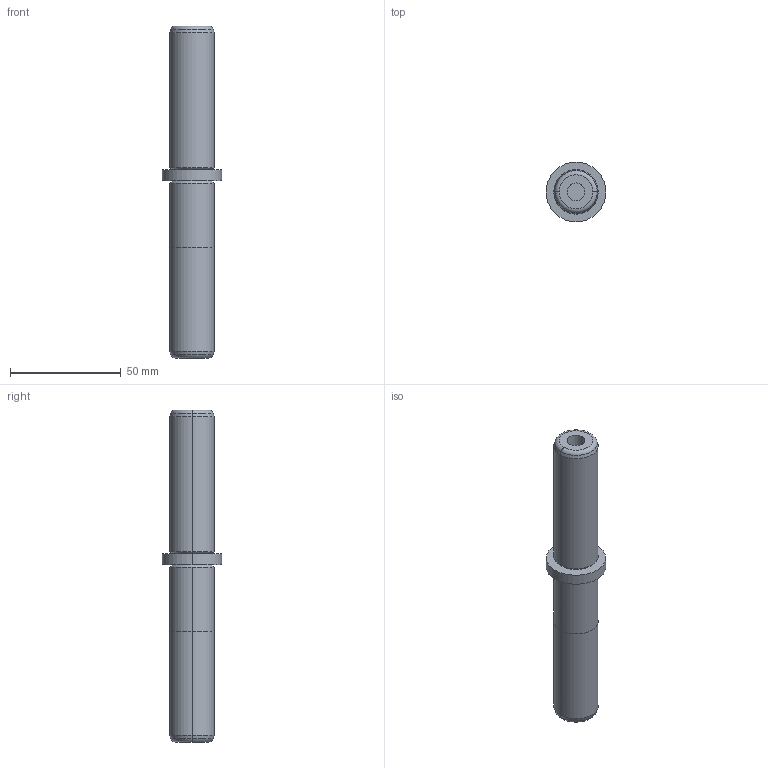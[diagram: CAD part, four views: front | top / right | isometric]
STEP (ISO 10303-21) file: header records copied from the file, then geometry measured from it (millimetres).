
FILE_DESCRIPTION(/* description */ (''),/* implementation_level */ '2;1');
FILE_NAME(/* name */ '3d_sgpwh20-80-70-b30_05311_r00.stp',/* time_stamp */ '2011-01-10T14:11:02+09:00',/* author */ ('MISUMI'),/* organization */ (''),/* preprocessor_version */ 'ST-DEVELOPER v11',/* originating_system */ 'UGS - NX 5.0',/* authorisation */ '');
FILE_SCHEMA (('CONFIG_CONTROL_DESIGN'));
Length unit declared in the file: millimetre
Products named in the file (1): 3d_sgpwh20-80-70-b30_05311_r00
Bounding box: 27 x 27 x 150 mm (x, y, z)
Volume: 45643.6 mm3; surface area: 11945.3 mm2
Topology: 1 solids, 1 shells, 30 faces, 58 edges, 34 vertices
Faces by surface type: cylinder 12, cone 8, plane 6, torus 4
Entity records: 854 total; most frequent: DIRECTION 158, CARTESIAN_POINT 123, ORIENTED_EDGE 116, AXIS2_PLACEMENT_3D 69, EDGE_CURVE 58, CIRCLE 38, EDGE_LOOP 34, VERTEX_POINT 34
